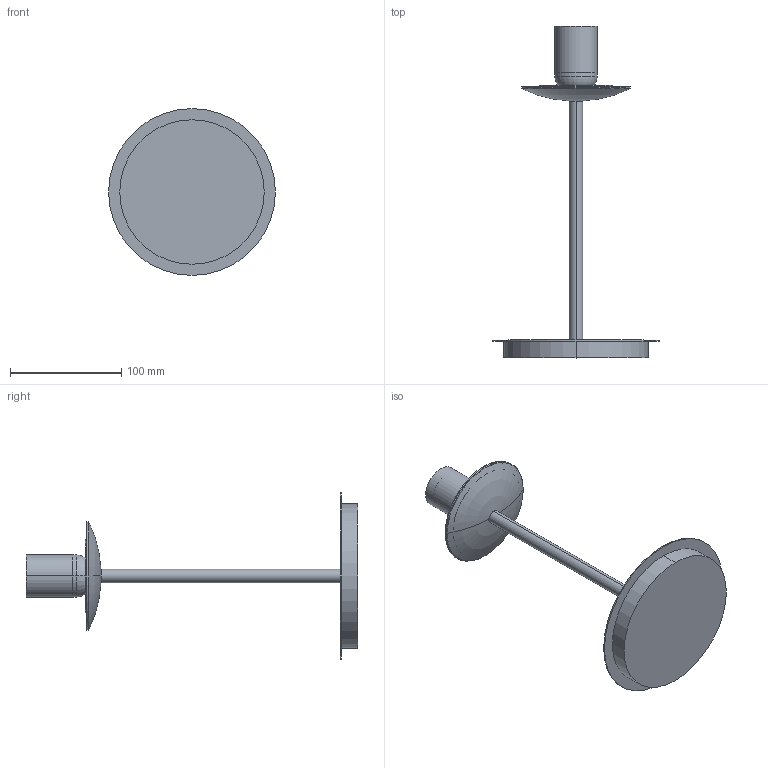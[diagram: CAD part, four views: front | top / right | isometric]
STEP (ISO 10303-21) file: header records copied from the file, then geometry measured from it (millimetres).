
FILE_DESCRIPTION (( 'STEP AP203' ), '1' );
FILE_NAME ('PARMA MESA - PIE SIN TULIPA.STEP', '2026-01-21T11:55:07', ( '' ), ( '' ), 'SwSTEP 2.0', 'SolidWorks 2025', '' );
FILE_SCHEMA (( 'CONFIG_CONTROL_DESIGN' ));
Length unit declared in the file: millimetre
Products named in the file (5): PARMA MESA - PIE SIN TULIPA; PARMA MESA - PIE ESTRUCTURA_PARMA MESA; BaseParmaConCasquillo; Portalamparas E27 Parma; Base Parma Shifa
Assembly tree (4 placements, depth 3):
  PARMA MESA - PIE SIN TULIPA
    PARMA MESA - PIE ESTRUCTURA_PARMA MESA
    BaseParmaConCasquillo
      Base Parma Shifa
      Portalamparas E27 Parma
Bounding box: 150 x 298.45 x 150 mm (x, y, z)
Volume: 309477.9 mm3; surface area: 81610 mm2
Topology: 3 solids, 3 shells, 70 faces, 151 edges, 94 vertices
Faces by surface type: cylinder 41, plane 15, torus 8, bspline 4, cone 2
Entity records: 3613 total; most frequent: CARTESIAN_POINT 1599, DIRECTION 341, ORIENTED_EDGE 302, EDGE_CURVE 151, AXIS2_PLACEMENT_3D 149, VERTEX_POINT 94, EDGE_LOOP 81, CIRCLE 75
